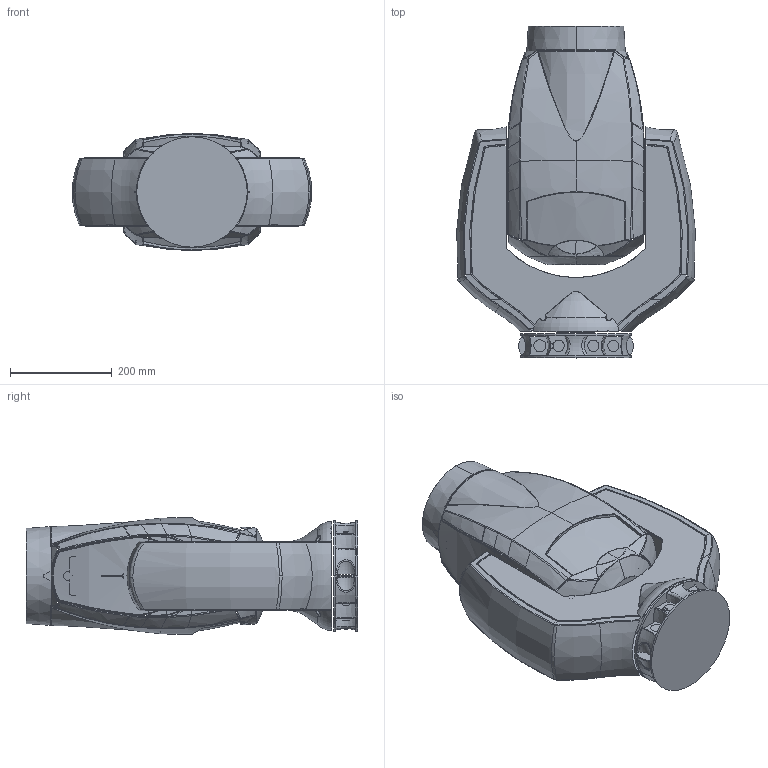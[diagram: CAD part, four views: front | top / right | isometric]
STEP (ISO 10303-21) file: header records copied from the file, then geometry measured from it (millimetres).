
FILE_DESCRIPTION((''),'2;1');
FILE_NAME('W350','2019-03-22T14:59:38',('mr'),(''),'CREO PARAMETRIC BY PTC INC, 2018500','CREO PARAMETRIC BY PTC INC, 2018500','');
FILE_SCHEMA(('AUTOMOTIVE_DESIGN { 1 0 10303 214 1 1 1 1 }'));
Products named in the file (1): W350
Bounding box: 468.89 x 652.2 x 229.77 mm (x, y, z)
Surface area: 1023429.7 mm2 (no closed solid volume)
Topology: 0 solids, 136 shells, 501 faces, 2635 edges, 2217 vertices
Faces by surface type: bspline 240, plane 60, torus 52, cone 49, extrusion 36, cylinder 32, sphere 32
Entity records: 77504 total; most frequent: CARTESIAN_POINT 56158, ORIENTED_EDGE 3173, EDGE_CURVE 2627, DIRECTION 2319, VERTEX_POINT 2217, B_SPLINE_CURVE_WITH_KNOTS 1516, AXIS2_PLACEMENT_3D 895, FILL_AREA_STYLE_COLOUR 757
